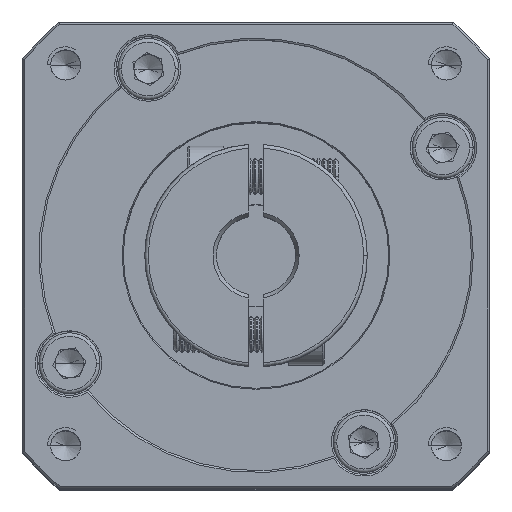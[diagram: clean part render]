
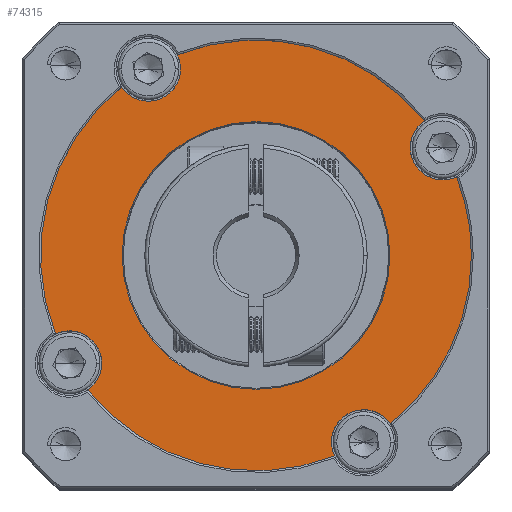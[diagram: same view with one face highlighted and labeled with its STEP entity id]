
A CAD part, top view. The second image highlights one B-rep face of the part: STEP entity #74315.
In plain terms, the highlighted planar face has unit normal (0, 0, 1).
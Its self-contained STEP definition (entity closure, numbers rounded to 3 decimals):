
#652 = CARTESIAN_POINT ( 'NONE',  ( -68.815, 23.18, -0.205 ) ) ;
#1522 = ORIENTED_EDGE ( 'NONE', *, *, #76830, .F. ) ;
#1777 = CIRCLE ( 'NONE', #60387, 4.5 ) ;
#2396 = CARTESIAN_POINT ( 'NONE',  ( -61.551, 61.625, -0.205 ) ) ;
#2525 = DIRECTION ( 'NONE',  ( 1., 0., 0. ) ) ;
#2545 = ORIENTED_EDGE ( 'NONE', *, *, #58111, .T. ) ;
#2765 = VERTEX_POINT ( 'NONE', #75476 ) ;
#5735 = CARTESIAN_POINT ( 'NONE',  ( -42.834, 38.18, -0.205 ) ) ;
#6060 = CARTESIAN_POINT ( 'NONE',  ( -42.834, 38.18, -0.205 ) ) ;
#6150 = DIRECTION ( 'NONE',  ( 1., 0., 0. ) ) ;
#6311 = DIRECTION ( 'NONE',  ( 0., 0., 1. ) ) ;
#7464 = EDGE_CURVE ( 'NONE', #92904, #126534, #42117, .T. ) ;
#7802 = CARTESIAN_POINT ( 'NONE',  ( -53.334, 64.161, -0.205 ) ) ;
#7972 = CIRCLE ( 'NONE', #94884, 4.5 ) ;
#8414 = DIRECTION ( 'NONE',  ( 0., 0., 1. ) ) ;
#8738 = DIRECTION ( 'NONE',  ( 0., 0., 1. ) ) ;
#9236 = DIRECTION ( 'NONE',  ( 1., 0., 0. ) ) ;
#10343 = ORIENTED_EDGE ( 'NONE', *, *, #12294, .T. ) ;
#11857 = ORIENTED_EDGE ( 'NONE', *, *, #85964, .F. ) ;
#12294 = EDGE_CURVE ( 'NONE', #65361, #64055, #89819, .T. ) ;
#12369 = DIRECTION ( 'NONE',  ( 1., 0., 0. ) ) ;
#12738 = VERTEX_POINT ( 'NONE', #90351 ) ;
#13181 = CARTESIAN_POINT ( 'NONE',  ( -42.834, 38.18, -0.205 ) ) ;
#15300 = EDGE_CURVE ( 'NONE', #66462, #12738, #108136, .T. ) ;
#16086 = ORIENTED_EDGE ( 'NONE', *, *, #112234, .T. ) ;
#17901 = CIRCLE ( 'NONE', #110812, 18.644 ) ;
#20281 = AXIS2_PLACEMENT_3D ( 'NONE', #119940, #70217, #79999 ) ;
#20316 = ORIENTED_EDGE ( 'NONE', *, *, #64361, .F. ) ;
#20324 = DIRECTION ( 'NONE',  ( 0., 0., 1. ) ) ;
#22200 = AXIS2_PLACEMENT_3D ( 'NONE', #43933, #44346, #112512 ) ;
#22580 = DIRECTION ( 'NONE',  ( 0., 0., 1. ) ) ;
#22982 = DIRECTION ( 'NONE',  ( 0., 0., 1. ) ) ;
#23804 = DIRECTION ( 'NONE',  ( 0., 0., 1. ) ) ;
#25151 = EDGE_CURVE ( 'NONE', #65361, #68251, #30537, .T. ) ;
#25651 = DIRECTION ( 'NONE',  ( 0., 0., 1. ) ) ;
#25933 = EDGE_CURVE ( 'NONE', #46715, #125417, #53101, .T. ) ;
#27054 = ORIENTED_EDGE ( 'NONE', *, *, #35286, .F. ) ;
#28604 = DIRECTION ( 'NONE',  ( 1., 0., 0. ) ) ;
#28800 = ORIENTED_EDGE ( 'NONE', *, *, #118000, .F. ) ;
#30085 = DIRECTION ( 'NONE',  ( 1., 0., 0. ) ) ;
#30537 = CIRCLE ( 'NONE', #72913, 4.5 ) ;
#30594 = EDGE_CURVE ( 'NONE', #46715, #41608, #121290, .T. ) ;
#31357 = CARTESIAN_POINT ( 'NONE',  ( -27.834, 12.2, -0.205 ) ) ;
#31782 = DIRECTION ( 'NONE',  ( 1., 0., 0. ) ) ;
#33167 = CARTESIAN_POINT ( 'NONE',  ( -16.853, 53.18, -0.205 ) ) ;
#35240 = EDGE_CURVE ( 'NONE', #92904, #36704, #1777, .T. ) ;
#35286 = EDGE_CURVE ( 'NONE', #2765, #126534, #7972, .T. ) ;
#36704 = VERTEX_POINT ( 'NONE', #96062 ) ;
#36886 = CARTESIAN_POINT ( 'NONE',  ( -68.815, 23.18, -0.205 ) ) ;
#37171 = ORIENTED_EDGE ( 'NONE', *, *, #25933, .F. ) ;
#38889 = DIRECTION ( 'NONE',  ( 0., 0., 1. ) ) ;
#40470 = AXIS2_PLACEMENT_3D ( 'NONE', #69554, #22580, #12369 ) ;
#41608 = VERTEX_POINT ( 'NONE', #88461 ) ;
#42117 = CIRCLE ( 'NONE', #103063, 30. ) ;
#42933 = AXIS2_PLACEMENT_3D ( 'NONE', #36886, #8738, #97167 ) ;
#43933 = CARTESIAN_POINT ( 'NONE',  ( -42.834, 38.18, -0.205 ) ) ;
#44346 = DIRECTION ( 'NONE',  ( 0., 0., 1. ) ) ;
#46715 = VERTEX_POINT ( 'NONE', #106501 ) ;
#50786 = AXIS2_PLACEMENT_3D ( 'NONE', #6060, #25651, #124147 ) ;
#53101 = CIRCLE ( 'NONE', #99388, 4.5 ) ;
#55238 = CIRCLE ( 'NONE', #84120, 30. ) ;
#56634 = AXIS2_PLACEMENT_3D ( 'NONE', #107804, #38889, #98782 ) ;
#57838 = ORIENTED_EDGE ( 'NONE', *, *, #30594, .T. ) ;
#58111 = EDGE_CURVE ( 'NONE', #60222, #102474, #95075, .T. ) ;
#58958 = CARTESIAN_POINT ( 'NONE',  ( -57.834, 64.161, -0.205 ) ) ;
#59460 = CARTESIAN_POINT ( 'NONE',  ( -14.902, 49.125, -0.205 ) ) ;
#60222 = VERTEX_POINT ( 'NONE', #119787 ) ;
#60387 = AXIS2_PLACEMENT_3D ( 'NONE', #652, #20324, #30085 ) ;
#64055 = VERTEX_POINT ( 'NONE', #99141 ) ;
#64361 = EDGE_CURVE ( 'NONE', #36704, #64055, #105895, .T. ) ;
#65361 = VERTEX_POINT ( 'NONE', #2396 ) ;
#66462 = VERTEX_POINT ( 'NONE', #119696 ) ;
#67529 = DIRECTION ( 'NONE',  ( 0., 0., 1. ) ) ;
#68251 = VERTEX_POINT ( 'NONE', #7802 ) ;
#68913 = ORIENTED_EDGE ( 'NONE', *, *, #35240, .F. ) ;
#69554 = CARTESIAN_POINT ( 'NONE',  ( -57.834, 64.161, -0.205 ) ) ;
#70217 = DIRECTION ( 'NONE',  ( 0., 0., 1. ) ) ;
#72037 = CARTESIAN_POINT ( 'NONE',  ( -21.353, 53.18, -0.205 ) ) ;
#72913 = AXIS2_PLACEMENT_3D ( 'NONE', #58958, #67529, #28604 ) ;
#73767 = AXIS2_PLACEMENT_3D ( 'NONE', #126429, #8414, #9236 ) ;
#74008 = CIRCLE ( 'NONE', #73767, 4.5 ) ;
#74315 = ADVANCED_FACE ( 'NONE', ( #112052, #82802 ), #121529, .T. ) ;
#75476 = CARTESIAN_POINT ( 'NONE',  ( -32.334, 12.2, -0.205 ) ) ;
#76830 = EDGE_CURVE ( 'NONE', #68251, #41608, #81331, .T. ) ;
#78743 = EDGE_LOOP ( 'NONE', ( #88163, #16086 ) ) ;
#79999 = DIRECTION ( 'NONE',  ( 1., 0., 0. ) ) ;
#81331 = CIRCLE ( 'NONE', #40470, 4.5 ) ;
#81882 = DIRECTION ( 'NONE',  ( 1., 0., 0. ) ) ;
#81912 = DIRECTION ( 'NONE',  ( 0., 0., -1. ) ) ;
#82730 = VERTEX_POINT ( 'NONE', #101018 ) ;
#82802 = FACE_OUTER_BOUND ( 'NONE', #97108, .T. ) ;
#83386 = EDGE_CURVE ( 'NONE', #82730, #60222, #55238, .T. ) ;
#83422 = DIRECTION ( 'NONE',  ( 1., 0., 0. ) ) ;
#84120 = AXIS2_PLACEMENT_3D ( 'NONE', #13181, #22982, #81882 ) ;
#85110 = DIRECTION ( 'NONE',  ( 0., 0., -1. ) ) ;
#85964 = EDGE_CURVE ( 'NONE', #125417, #102474, #74008, .T. ) ;
#88163 = ORIENTED_EDGE ( 'NONE', *, *, #15300, .T. ) ;
#88461 = CARTESIAN_POINT ( 'NONE',  ( -53.779, 66.112, -0.205 ) ) ;
#89819 = CIRCLE ( 'NONE', #115270, 30. ) ;
#90351 = CARTESIAN_POINT ( 'NONE',  ( -61.478, 38.18, -0.205 ) ) ;
#90974 = CARTESIAN_POINT ( 'NONE',  ( -42.834, 38.18, -0.205 ) ) ;
#92904 = VERTEX_POINT ( 'NONE', #95991 ) ;
#93753 = DIRECTION ( 'NONE',  ( 0., 0., 1. ) ) ;
#94520 = ORIENTED_EDGE ( 'NONE', *, *, #7464, .T. ) ;
#94884 = AXIS2_PLACEMENT_3D ( 'NONE', #31357, #110119, #31782 ) ;
#95075 = CIRCLE ( 'NONE', #20281, 30. ) ;
#95157 = CARTESIAN_POINT ( 'NONE',  ( -42.834, 38.18, -0.205 ) ) ;
#95991 = CARTESIAN_POINT ( 'NONE',  ( -66.279, 19.463, -0.205 ) ) ;
#96062 = CARTESIAN_POINT ( 'NONE',  ( -64.315, 23.18, -0.205 ) ) ;
#96984 = CIRCLE ( 'NONE', #56634, 4.5 ) ;
#97108 = EDGE_LOOP ( 'NONE', ( #68913, #94520, #27054, #28800, #113938, #2545, #11857, #37171, #57838, #1522, #100584, #10343, #20316 ) ) ;
#97167 = DIRECTION ( 'NONE',  ( 1., 0., 0. ) ) ;
#98782 = DIRECTION ( 'NONE',  ( 1., 0., 0. ) ) ;
#99141 = CARTESIAN_POINT ( 'NONE',  ( -70.766, 27.235, -0.205 ) ) ;
#99388 = AXIS2_PLACEMENT_3D ( 'NONE', #33167, #23804, #101696 ) ;
#100584 = ORIENTED_EDGE ( 'NONE', *, *, #25151, .F. ) ;
#101018 = CARTESIAN_POINT ( 'NONE',  ( -24.117, 14.735, -0.205 ) ) ;
#101696 = DIRECTION ( 'NONE',  ( 1., 0., 0. ) ) ;
#102474 = VERTEX_POINT ( 'NONE', #59460 ) ;
#103063 = AXIS2_PLACEMENT_3D ( 'NONE', #5735, #93753, #83422 ) ;
#105895 = CIRCLE ( 'NONE', #42933, 4.5 ) ;
#106501 = CARTESIAN_POINT ( 'NONE',  ( -19.389, 56.898, -0.205 ) ) ;
#107804 = CARTESIAN_POINT ( 'NONE',  ( -27.834, 12.2, -0.205 ) ) ;
#108136 = CIRCLE ( 'NONE', #109791, 18.644 ) ;
#109791 = AXIS2_PLACEMENT_3D ( 'NONE', #90974, #81912, #2525 ) ;
#110119 = DIRECTION ( 'NONE',  ( 0., 0., 1. ) ) ;
#110812 = AXIS2_PLACEMENT_3D ( 'NONE', #125047, #85110, #6150 ) ;
#112052 = FACE_BOUND ( 'NONE', #78743, .T. ) ;
#112234 = EDGE_CURVE ( 'NONE', #12738, #66462, #17901, .T. ) ;
#112512 = DIRECTION ( 'NONE',  ( 1., 0., 0. ) ) ;
#113938 = ORIENTED_EDGE ( 'NONE', *, *, #83386, .T. ) ;
#114100 = DIRECTION ( 'NONE',  ( 1., 0., 0. ) ) ;
#115270 = AXIS2_PLACEMENT_3D ( 'NONE', #95157, #6311, #114100 ) ;
#118000 = EDGE_CURVE ( 'NONE', #82730, #2765, #96984, .T. ) ;
#119696 = CARTESIAN_POINT ( 'NONE',  ( -24.19, 38.18, -0.205 ) ) ;
#119787 = CARTESIAN_POINT ( 'NONE',  ( -12.834, 38.18, -0.205 ) ) ;
#119940 = CARTESIAN_POINT ( 'NONE',  ( -42.834, 38.18, -0.205 ) ) ;
#121290 = CIRCLE ( 'NONE', #50786, 30. ) ;
#121529 = PLANE ( 'NONE',  #22200 ) ;
#124147 = DIRECTION ( 'NONE',  ( 1., 0., 0. ) ) ;
#124423 = CARTESIAN_POINT ( 'NONE',  ( -31.889, 10.248, -0.205 ) ) ;
#125047 = CARTESIAN_POINT ( 'NONE',  ( -42.834, 38.18, -0.205 ) ) ;
#125417 = VERTEX_POINT ( 'NONE', #72037 ) ;
#126429 = CARTESIAN_POINT ( 'NONE',  ( -16.853, 53.18, -0.205 ) ) ;
#126534 = VERTEX_POINT ( 'NONE', #124423 ) ;
